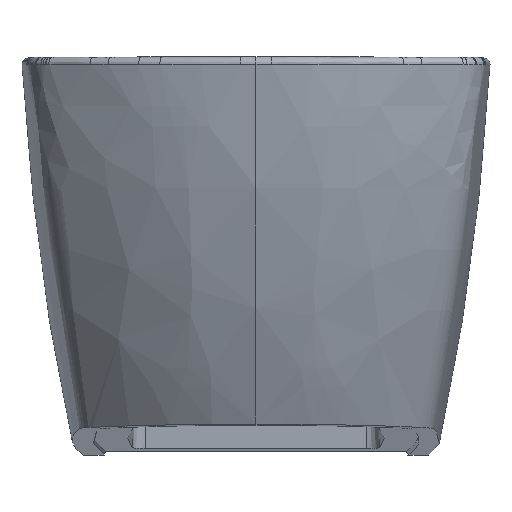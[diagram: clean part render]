
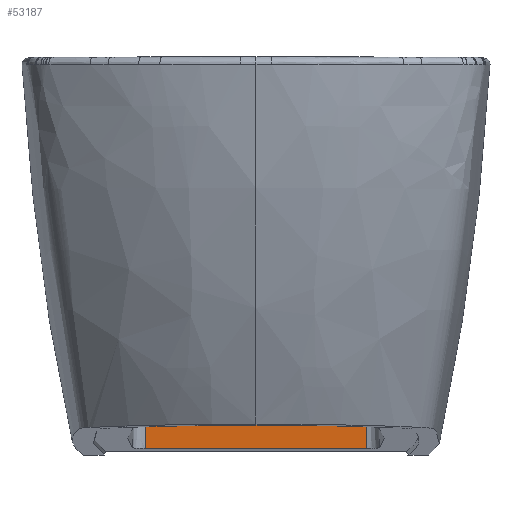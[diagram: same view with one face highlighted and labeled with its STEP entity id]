
A CAD part, top view. The second image highlights one B-rep face of the part: STEP entity #53187.
In plain terms, the highlighted planar face has unit normal (0, -0.052, 0.999).
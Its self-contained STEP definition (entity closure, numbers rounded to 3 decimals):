
#108 = CARTESIAN_POINT ( 'NONE',  ( 85.794, -266.35, -224.02 ) ) ;
#504 = VERTEX_POINT ( 'NONE', #4331 ) ;
#3921 = CARTESIAN_POINT ( 'NONE',  ( -85.794, -266.35, -224.02 ) ) ;
#4331 = CARTESIAN_POINT ( 'NONE',  ( -86.446, -304.649, -226.027 ) ) ;
#4979 = EDGE_CURVE ( 'NONE', #56807, #504, #14083, .T. ) ;
#9958 = EDGE_CURVE ( 'NONE', #24491, #38029, #30929, .T. ) ;
#14083 = LINE ( 'NONE', #56085, #59735 ) ;
#14325 = DIRECTION ( 'NONE',  ( 0., -0.052, 0.999 ) ) ;
#14705 = PLANE ( 'NONE',  #64679 ) ;
#23945 = VECTOR ( 'NONE', #73500, 1000. ) ;
#24491 = VERTEX_POINT ( 'NONE', #59256 ) ;
#24815 = EDGE_CURVE ( 'NONE', #504, #24491, #29975, .T. ) ;
#29975 = LINE ( 'NONE', #46937, #50719 ) ;
#30929 = LINE ( 'NONE', #108, #33635 ) ;
#30931 = FACE_OUTER_BOUND ( 'NONE', #69298, .T. ) ;
#31698 = ORIENTED_EDGE ( 'NONE', *, *, #24815, .T. ) ;
#33635 = VECTOR ( 'NONE', #54427, 1000. ) ;
#37456 = CARTESIAN_POINT ( 'NONE',  ( -144.525, -12.094, -210.695 ) ) ;
#37592 = ORIENTED_EDGE ( 'NONE', *, *, #39342, .T. ) ;
#38029 = VERTEX_POINT ( 'NONE', #42319 ) ;
#38334 = ORIENTED_EDGE ( 'NONE', *, *, #9958, .T. ) ;
#39342 = EDGE_CURVE ( 'NONE', #38029, #56807, #61928, .T. ) ;
#42319 = CARTESIAN_POINT ( 'NONE',  ( 85.794, -266.35, -224.02 ) ) ;
#46937 = CARTESIAN_POINT ( 'NONE',  ( 127.039, -304.649, -226.027 ) ) ;
#48483 = CARTESIAN_POINT ( 'NONE',  ( -144.525, -266.35, -224.02 ) ) ;
#50719 = VECTOR ( 'NONE', #69681, 1000. ) ;
#53187 = ADVANCED_FACE ( 'NONE', ( #30931 ), #14705, .T. ) ;
#54427 = DIRECTION ( 'NONE',  ( -0.017, 0.998, 0.052 ) ) ;
#55326 = DIRECTION ( 'NONE',  ( -0.017, -0.998, -0.052 ) ) ;
#56085 = CARTESIAN_POINT ( 'NONE',  ( -86.446, -304.649, -226.027 ) ) ;
#56807 = VERTEX_POINT ( 'NONE', #3921 ) ;
#59256 = CARTESIAN_POINT ( 'NONE',  ( 86.446, -304.649, -226.027 ) ) ;
#59735 = VECTOR ( 'NONE', #55326, 1000. ) ;
#61625 = ORIENTED_EDGE ( 'NONE', *, *, #4979, .T. ) ;
#61928 = LINE ( 'NONE', #48483, #23945 ) ;
#64679 = AXIS2_PLACEMENT_3D ( 'NONE', #37456, #14325, #72909 ) ;
#69298 = EDGE_LOOP ( 'NONE', ( #31698, #38334, #37592, #61625 ) ) ;
#69681 = DIRECTION ( 'NONE',  ( 1., 0., 0. ) ) ;
#72909 = DIRECTION ( 'NONE',  ( -1., 0., 0. ) ) ;
#73500 = DIRECTION ( 'NONE',  ( -1., 0., 0. ) ) ;
